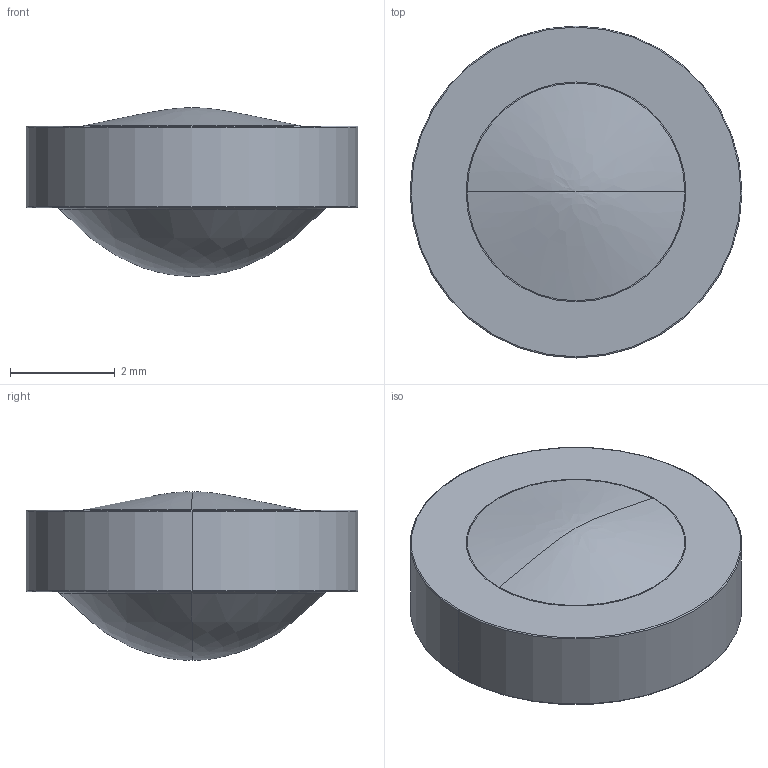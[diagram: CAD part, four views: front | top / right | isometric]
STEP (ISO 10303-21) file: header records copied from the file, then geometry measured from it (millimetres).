
FILE_DESCRIPTION((''),'2;1');
FILE_NAME('354330','2025-07-23T20:42:04',('admin'),('LIGHTPATH'),'CREO PARAMETRIC BY PTC INC, 2024063','CREO PARAMETRIC BY PTC INC, 2024063','');
FILE_SCHEMA(('CONFIG_CONTROL_DESIGN'));
Length unit declared in the file: millimetre
Products named in the file (1): 354330
Bounding box: 6.33 x 6.33 x 3.21 mm (x, y, z)
Volume: 64.5 mm3; surface area: 98.5 mm2
Topology: 1 solids, 1 shells, 16 faces, 34 edges, 18 vertices
Faces by surface type: torus 8, revolution 4, plane 2, cylinder 2
Entity records: 1630 total; most frequent: CARTESIAN_POINT 1254, DIRECTION 78, ORIENTED_EDGE 60, AXIS2_PLACEMENT_3D 36, EDGE_CURVE 30, CIRCLE 24, VERTEX_POINT 18, EDGE_LOOP 18
